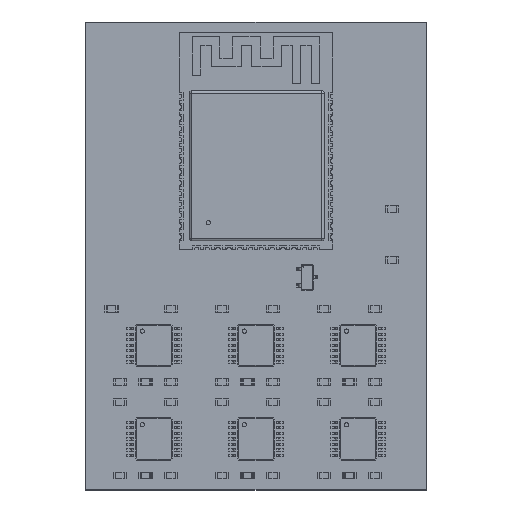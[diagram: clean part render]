
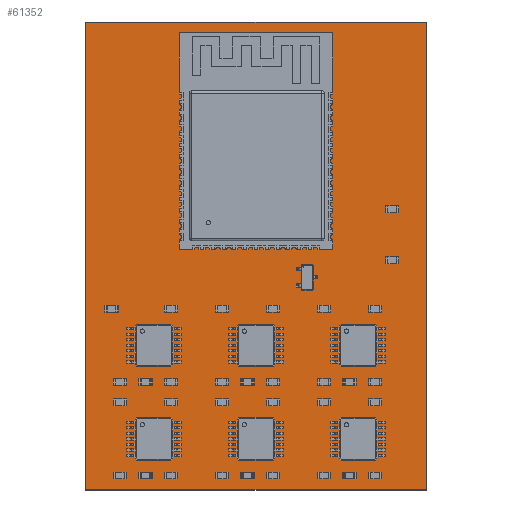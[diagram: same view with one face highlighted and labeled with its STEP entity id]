
A CAD part, top view. The second image highlights one B-rep face of the part: STEP entity #61352.
In plain terms, the highlighted planar face has unit normal (0, 0, 1).
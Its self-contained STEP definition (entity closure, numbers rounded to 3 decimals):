
#61108 = VERTEX_POINT('',#61109);
#61109 = CARTESIAN_POINT('',(120.,-135.,1.11));
#61115 = EDGE_CURVE('',#61108,#61116,#61118,.T.);
#61116 = VERTEX_POINT('',#61117);
#61117 = CARTESIAN_POINT('',(80.,-135.,1.11));
#61118 = LINE('',#61119,#61120);
#61119 = CARTESIAN_POINT('',(120.,-135.,1.11));
#61120 = VECTOR('',#61121,1.);
#61121 = DIRECTION('',(-1.,0.,0.));
#61148 = VERTEX_POINT('',#61149);
#61149 = CARTESIAN_POINT('',(120.,-80.,1.11));
#61155 = EDGE_CURVE('',#61148,#61108,#61156,.T.);
#61156 = LINE('',#61157,#61158);
#61157 = CARTESIAN_POINT('',(120.,-80.,1.11));
#61158 = VECTOR('',#61159,1.);
#61159 = DIRECTION('',(0.,-1.,0.));
#61177 = EDGE_CURVE('',#61116,#61178,#61180,.T.);
#61178 = VERTEX_POINT('',#61179);
#61179 = CARTESIAN_POINT('',(80.,-80.,1.11));
#61180 = LINE('',#61181,#61182);
#61181 = CARTESIAN_POINT('',(80.,-135.,1.11));
#61182 = VECTOR('',#61183,1.);
#61183 = DIRECTION('',(0.,1.,0.));
#61352 = ADVANCED_FACE('',(#61353,#61364,#61375,#61386,#61397,#61408,
    #61419,#61430,#61441,#61452,#61463,#61474,#61485),#61496,.T.);
#61353 = FACE_BOUND('',#61354,.T.);
#61354 = EDGE_LOOP('',(#61355,#61356,#61357,#61363));
#61355 = ORIENTED_EDGE('',*,*,#61115,.F.);
#61356 = ORIENTED_EDGE('',*,*,#61155,.F.);
#61357 = ORIENTED_EDGE('',*,*,#61358,.F.);
#61358 = EDGE_CURVE('',#61178,#61148,#61359,.T.);
#61359 = LINE('',#61360,#61361);
#61360 = CARTESIAN_POINT('',(80.,-80.,1.11));
#61361 = VECTOR('',#61362,1.);
#61362 = DIRECTION('',(1.,0.,0.));
#61363 = ORIENTED_EDGE('',*,*,#61177,.F.);
#61364 = FACE_BOUND('',#61365,.T.);
#61365 = EDGE_LOOP('',(#61366));
#61366 = ORIENTED_EDGE('',*,*,#61367,.T.);
#61367 = EDGE_CURVE('',#61368,#61368,#61370,.T.);
#61368 = VERTEX_POINT('',#61369);
#61369 = CARTESIAN_POINT('',(97.8,-97.96,1.11));
#61370 = CIRCLE('',#61371,0.1);
#61371 = AXIS2_PLACEMENT_3D('',#61372,#61373,#61374);
#61372 = CARTESIAN_POINT('',(97.8,-97.86,1.11));
#61373 = DIRECTION('',(-0.,0.,-1.));
#61374 = DIRECTION('',(0.,-1.,0.));
#61375 = FACE_BOUND('',#61376,.T.);
#61376 = EDGE_LOOP('',(#61377));
#61377 = ORIENTED_EDGE('',*,*,#61378,.T.);
#61378 = EDGE_CURVE('',#61379,#61379,#61381,.T.);
#61379 = VERTEX_POINT('',#61380);
#61380 = CARTESIAN_POINT('',(97.1,-97.26,1.11));
#61381 = CIRCLE('',#61382,0.1);
#61382 = AXIS2_PLACEMENT_3D('',#61383,#61384,#61385);
#61383 = CARTESIAN_POINT('',(97.1,-97.16,1.11));
#61384 = DIRECTION('',(-0.,0.,-1.));
#61385 = DIRECTION('',(-0.,-1.,0.));
#61386 = FACE_BOUND('',#61387,.T.);
#61387 = EDGE_LOOP('',(#61388));
#61388 = ORIENTED_EDGE('',*,*,#61389,.T.);
#61389 = EDGE_CURVE('',#61390,#61390,#61392,.T.);
#61390 = VERTEX_POINT('',#61391);
#61391 = CARTESIAN_POINT('',(97.8,-96.56,1.11));
#61392 = CIRCLE('',#61393,0.1);
#61393 = AXIS2_PLACEMENT_3D('',#61394,#61395,#61396);
#61394 = CARTESIAN_POINT('',(97.8,-96.46,1.11));
#61395 = DIRECTION('',(-0.,0.,-1.));
#61396 = DIRECTION('',(0.,-1.,0.));
#61397 = FACE_BOUND('',#61398,.T.);
#61398 = EDGE_LOOP('',(#61399));
#61399 = ORIENTED_EDGE('',*,*,#61400,.T.);
#61400 = EDGE_CURVE('',#61401,#61401,#61403,.T.);
#61401 = VERTEX_POINT('',#61402);
#61402 = CARTESIAN_POINT('',(99.2,-97.96,1.11));
#61403 = CIRCLE('',#61404,0.1);
#61404 = AXIS2_PLACEMENT_3D('',#61405,#61406,#61407);
#61405 = CARTESIAN_POINT('',(99.2,-97.86,1.11));
#61406 = DIRECTION('',(-0.,0.,-1.));
#61407 = DIRECTION('',(0.,-1.,-0.));
#61408 = FACE_BOUND('',#61409,.T.);
#61409 = EDGE_LOOP('',(#61410));
#61410 = ORIENTED_EDGE('',*,*,#61411,.T.);
#61411 = EDGE_CURVE('',#61412,#61412,#61414,.T.);
#61412 = VERTEX_POINT('',#61413);
#61413 = CARTESIAN_POINT('',(98.5,-97.26,1.11));
#61414 = CIRCLE('',#61415,0.1);
#61415 = AXIS2_PLACEMENT_3D('',#61416,#61417,#61418);
#61416 = CARTESIAN_POINT('',(98.5,-97.16,1.11));
#61417 = DIRECTION('',(-0.,0.,-1.));
#61418 = DIRECTION('',(-0.,-1.,0.));
#61419 = FACE_BOUND('',#61420,.T.);
#61420 = EDGE_LOOP('',(#61421));
#61421 = ORIENTED_EDGE('',*,*,#61422,.T.);
#61422 = EDGE_CURVE('',#61423,#61423,#61425,.T.);
#61423 = VERTEX_POINT('',#61424);
#61424 = CARTESIAN_POINT('',(99.2,-96.56,1.11));
#61425 = CIRCLE('',#61426,0.1);
#61426 = AXIS2_PLACEMENT_3D('',#61427,#61428,#61429);
#61427 = CARTESIAN_POINT('',(99.2,-96.46,1.11));
#61428 = DIRECTION('',(-0.,0.,-1.));
#61429 = DIRECTION('',(0.,-1.,-0.));
#61430 = FACE_BOUND('',#61431,.T.);
#61431 = EDGE_LOOP('',(#61432));
#61432 = ORIENTED_EDGE('',*,*,#61433,.T.);
#61433 = EDGE_CURVE('',#61434,#61434,#61436,.T.);
#61434 = VERTEX_POINT('',#61435);
#61435 = CARTESIAN_POINT('',(99.9,-97.26,1.11));
#61436 = CIRCLE('',#61437,0.1);
#61437 = AXIS2_PLACEMENT_3D('',#61438,#61439,#61440);
#61438 = CARTESIAN_POINT('',(99.9,-97.16,1.11));
#61439 = DIRECTION('',(-0.,0.,-1.));
#61440 = DIRECTION('',(-0.,-1.,0.));
#61441 = FACE_BOUND('',#61442,.T.);
#61442 = EDGE_LOOP('',(#61443));
#61443 = ORIENTED_EDGE('',*,*,#61444,.T.);
#61444 = EDGE_CURVE('',#61445,#61445,#61447,.T.);
#61445 = VERTEX_POINT('',#61446);
#61446 = CARTESIAN_POINT('',(97.1,-95.86,1.11));
#61447 = CIRCLE('',#61448,0.1);
#61448 = AXIS2_PLACEMENT_3D('',#61449,#61450,#61451);
#61449 = CARTESIAN_POINT('',(97.1,-95.76,1.11));
#61450 = DIRECTION('',(-0.,0.,-1.));
#61451 = DIRECTION('',(-0.,-1.,0.));
#61452 = FACE_BOUND('',#61453,.T.);
#61453 = EDGE_LOOP('',(#61454));
#61454 = ORIENTED_EDGE('',*,*,#61455,.T.);
#61455 = EDGE_CURVE('',#61456,#61456,#61458,.T.);
#61456 = VERTEX_POINT('',#61457);
#61457 = CARTESIAN_POINT('',(97.8,-95.16,1.11));
#61458 = CIRCLE('',#61459,0.1);
#61459 = AXIS2_PLACEMENT_3D('',#61460,#61461,#61462);
#61460 = CARTESIAN_POINT('',(97.8,-95.06,1.11));
#61461 = DIRECTION('',(-0.,0.,-1.));
#61462 = DIRECTION('',(0.,-1.,0.));
#61463 = FACE_BOUND('',#61464,.T.);
#61464 = EDGE_LOOP('',(#61465));
#61465 = ORIENTED_EDGE('',*,*,#61466,.T.);
#61466 = EDGE_CURVE('',#61467,#61467,#61469,.T.);
#61467 = VERTEX_POINT('',#61468);
#61468 = CARTESIAN_POINT('',(98.5,-95.86,1.11));
#61469 = CIRCLE('',#61470,0.1);
#61470 = AXIS2_PLACEMENT_3D('',#61471,#61472,#61473);
#61471 = CARTESIAN_POINT('',(98.5,-95.76,1.11));
#61472 = DIRECTION('',(-0.,0.,-1.));
#61473 = DIRECTION('',(-0.,-1.,0.));
#61474 = FACE_BOUND('',#61475,.T.);
#61475 = EDGE_LOOP('',(#61476));
#61476 = ORIENTED_EDGE('',*,*,#61477,.T.);
#61477 = EDGE_CURVE('',#61478,#61478,#61480,.T.);
#61478 = VERTEX_POINT('',#61479);
#61479 = CARTESIAN_POINT('',(99.9,-95.86,1.11));
#61480 = CIRCLE('',#61481,0.1);
#61481 = AXIS2_PLACEMENT_3D('',#61482,#61483,#61484);
#61482 = CARTESIAN_POINT('',(99.9,-95.76,1.11));
#61483 = DIRECTION('',(-0.,0.,-1.));
#61484 = DIRECTION('',(-0.,-1.,0.));
#61485 = FACE_BOUND('',#61486,.T.);
#61486 = EDGE_LOOP('',(#61487));
#61487 = ORIENTED_EDGE('',*,*,#61488,.T.);
#61488 = EDGE_CURVE('',#61489,#61489,#61491,.T.);
#61489 = VERTEX_POINT('',#61490);
#61490 = CARTESIAN_POINT('',(99.2,-95.16,1.11));
#61491 = CIRCLE('',#61492,0.1);
#61492 = AXIS2_PLACEMENT_3D('',#61493,#61494,#61495);
#61493 = CARTESIAN_POINT('',(99.2,-95.06,1.11));
#61494 = DIRECTION('',(-0.,0.,-1.));
#61495 = DIRECTION('',(0.,-1.,-0.));
#61496 = PLANE('',#61497);
#61497 = AXIS2_PLACEMENT_3D('',#61498,#61499,#61500);
#61498 = CARTESIAN_POINT('',(0.,0.,1.11));
#61499 = DIRECTION('',(0.,0.,1.));
#61500 = DIRECTION('',(1.,0.,-0.));
